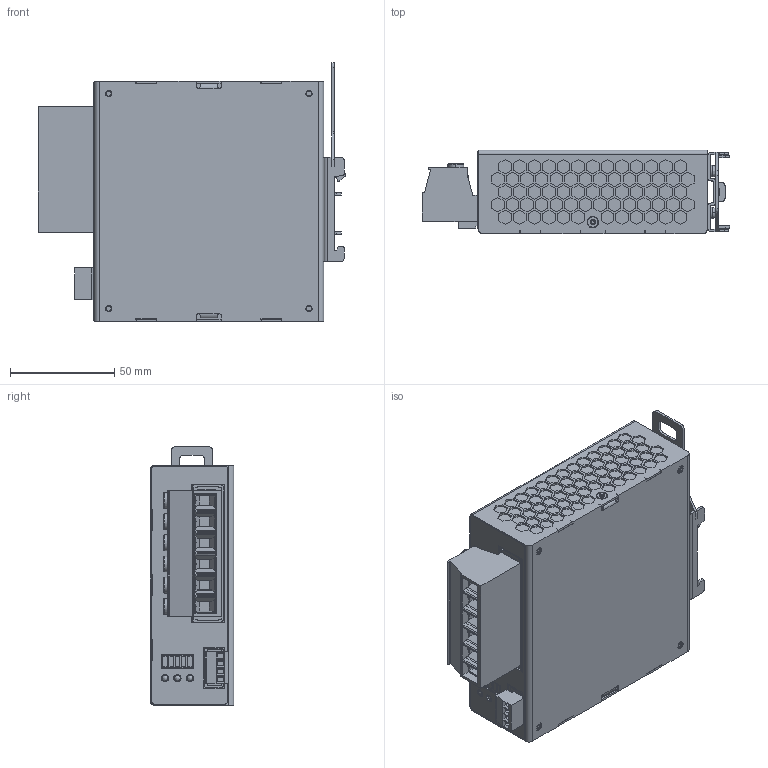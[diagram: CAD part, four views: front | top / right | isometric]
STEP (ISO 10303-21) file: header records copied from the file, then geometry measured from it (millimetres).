
FILE_DESCRIPTION (( 'STEP AP214' ), '1' );
FILE_NAME ('OR50_3D_light.STEP', '2016-04-27T08:32:11', ( 'miky' ), ( 'Microsoft' ), 'SwSTEP 2.0', 'SolidWorks 2014', '' );
FILE_SCHEMA (( 'AUTOMOTIVE_DESIGN' ));
Length unit declared in the file: millimetre
Products named in the file (1): OR50_3D_light
Bounding box: 147.11 x 40 x 123.7 mm (x, y, z)
Volume: 541485 mm3; surface area: 64160.3 mm2
Topology: 1 solids, 9 shells, 2423 faces, 6422 edges, 4240 vertices
Faces by surface type: plane 1889, cylinder 445, cone 40, torus 28, bspline 17, sphere 4
Entity records: 101232 total; most frequent: CARTESIAN_POINT 15080, ORIENTED_EDGE 12844, DIRECTION 11986, EDGE_CURVE 6422, LINE 5228, VECTOR 5228, VERTEX_POINT 4240, AXIS2_PLACEMENT_3D 3379
